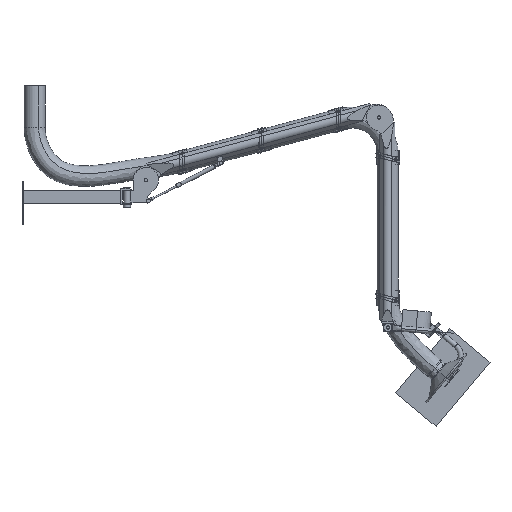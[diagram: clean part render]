
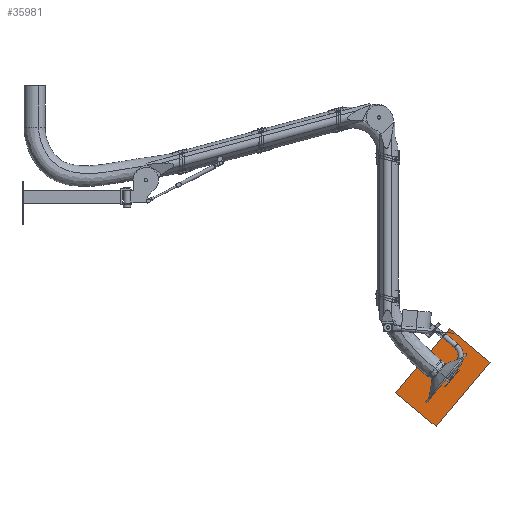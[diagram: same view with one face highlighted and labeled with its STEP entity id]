
A CAD part, top view. The second image highlights one B-rep face of the part: STEP entity #35981.
In plain terms, the highlighted planar face has unit normal (0, 0, -1).
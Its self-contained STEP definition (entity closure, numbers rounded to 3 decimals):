
#35930=DIRECTION('',(0.,1.,0.));
#35931=VECTOR('',#35930,250.);
#35932=CARTESIAN_POINT('',(200.,-250.,0.));
#35933=LINE('',#35932,#35931);
#35937=DIRECTION('',(-1.,0.,0.));
#35938=VECTOR('',#35937,400.);
#35939=CARTESIAN_POINT('',(200.,0.,0.));
#35940=LINE('',#35939,#35938);
#35944=DIRECTION('',(0.,-1.,0.));
#35945=VECTOR('',#35944,250.);
#35946=CARTESIAN_POINT('',(-200.,0.,0.));
#35947=LINE('',#35946,#35945);
#35951=DIRECTION('',(1.,0.,0.));
#35952=VECTOR('',#35951,400.);
#35953=CARTESIAN_POINT('',(-200.,-250.,0.));
#35954=LINE('',#35953,#35952);
#35958=CARTESIAN_POINT('',(200.,-250.,0.));
#35959=CARTESIAN_POINT('',(200.,0.,0.));
#35960=VERTEX_POINT('',#35958);
#35961=VERTEX_POINT('',#35959);
#35962=CARTESIAN_POINT('',(-200.,-250.,0.));
#35963=CARTESIAN_POINT('',(-200.,0.,0.));
#35964=VERTEX_POINT('',#35962);
#35965=VERTEX_POINT('',#35963);
#35966=CARTESIAN_POINT('',(200.,-250.,0.));
#35967=DIRECTION('',(0.,0.,-1.));
#35968=DIRECTION('',(0.,1.,0.));
#35969=AXIS2_PLACEMENT_3D('',#35966,#35967,#35968);
#35970=PLANE('',#35969);
#35972=ORIENTED_EDGE('',*,*,#35971,.T.);
#35974=ORIENTED_EDGE('',*,*,#35973,.T.);
#35976=ORIENTED_EDGE('',*,*,#35975,.T.);
#35978=ORIENTED_EDGE('',*,*,#35977,.T.);
#35979=EDGE_LOOP('',(#35972,#35974,#35976,#35978));
#35980=FACE_OUTER_BOUND('',#35979,.F.);
#35971=EDGE_CURVE('',#35960,#35961,#35933,.T.);
#35973=EDGE_CURVE('',#35961,#35965,#35940,.T.);
#35975=EDGE_CURVE('',#35965,#35964,#35947,.T.);
#35977=EDGE_CURVE('',#35964,#35960,#35954,.T.);
#35981=ADVANCED_FACE('',(#35980),#35970,.T.);
